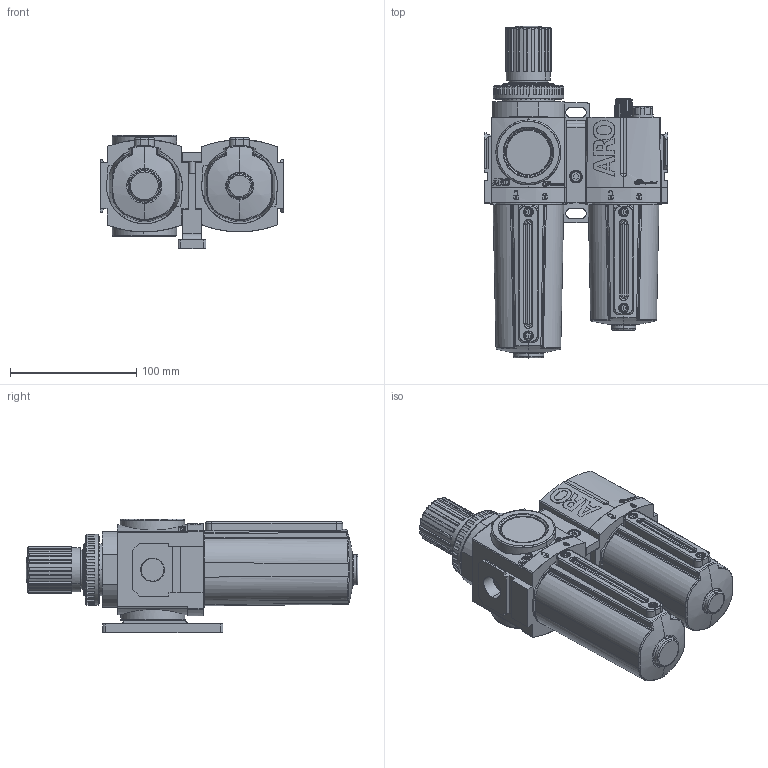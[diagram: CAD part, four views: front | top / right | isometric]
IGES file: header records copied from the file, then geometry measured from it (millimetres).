
Global section: file name: C:\Documents and Settings\szeedyk\Desktop\C383X1-61X_01.igs; native system: NX V4.0; preprocessor: UGS NX IGES V4.0; date: 20090206.135509; units: inch
Bounding box: 145.4 x 262.89 x 89.8 mm (x, y, z)
Surface area: 143021.1 mm2 (no closed solid volume)
Topology: 0 solids, 0 shells, 2717 faces, 16495 edges, 16477 vertices
Faces by surface type: bspline 2717
